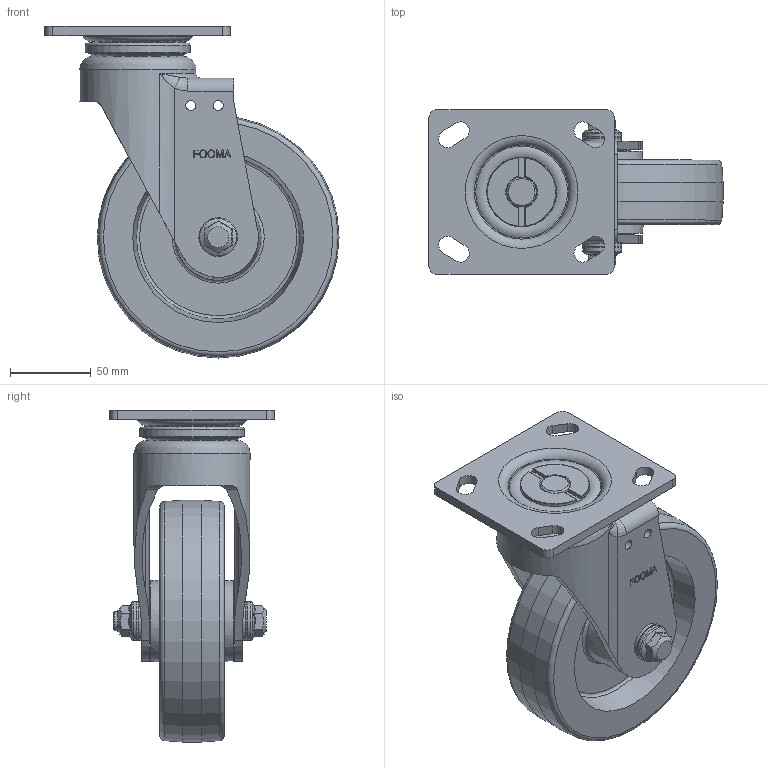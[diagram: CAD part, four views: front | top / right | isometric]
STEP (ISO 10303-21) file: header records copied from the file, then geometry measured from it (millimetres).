
FILE_DESCRIPTION((''),'2;1');
FILE_NAME('C:\Documents and Settings\Administrator\바탕 화면\3D STEP\GH-SERIES\GH-150\GH-150A-SF.stp','2010-12-27T14:25:31',('Administrator'),(''),'Autodesk Inventor 2009','Autodesk Inventor 2009','');
FILE_SCHEMA(('AUTOMOTIVE_DESIGN { 1 0 10303 214 1 1 1 1 }'));
Length unit declared in the file: millimetre
Products named in the file (1): GH-150A-SF
Bounding box: 182.5 x 102 x 205.98 mm (x, y, z)
Volume: 561286.7 mm3; surface area: 176883.9 mm2
Topology: 9 solids, 12 shells, 487 faces, 1241 edges, 810 vertices
Faces by surface type: bspline 208, plane 147, cylinder 70, torus 39, cone 23
Full cylindrical faces by diameter (mm): 6.1 x4, 12 x1, 15 x2, 15.2 x2, 18.5 x2, 21.5 x1, 22 x1, 24 x4, 29.9 x1, 30 x1, 30.5 x2, 31.615 x2, 35 x2, 41 x1, 44 x2, 48.961 x2, 61 x1, 62 x1, 63.14 x1, 65.14 x1, 72 x1, 150 x1
Entity records: 17865 total; most frequent: CARTESIAN_POINT 7923, ORIENTED_EDGE 2190, DIRECTION 1480, EDGE_CURVE 1095, VERTEX_POINT 775, EDGE_LOOP 678, AXIS2_PLACEMENT_3D 527, FACE_OUTER_BOUND 485
